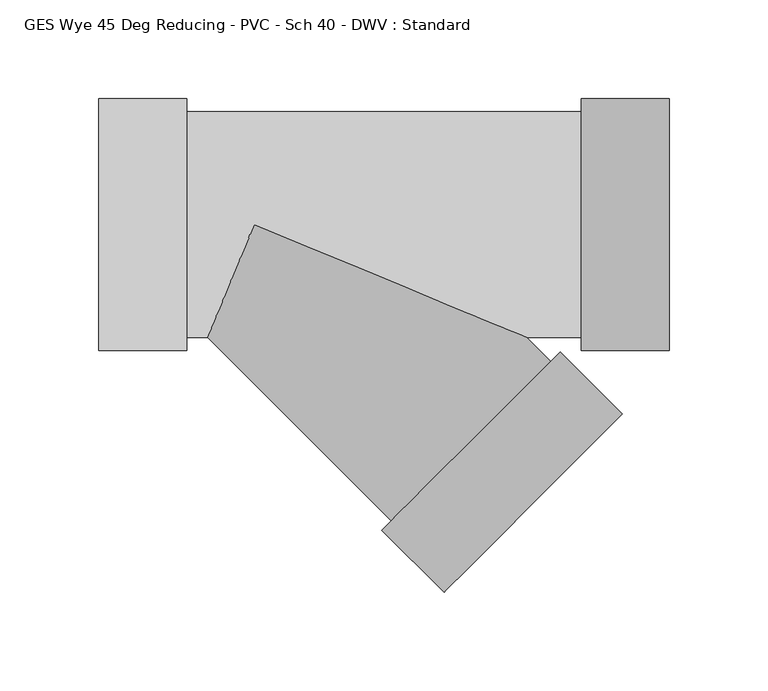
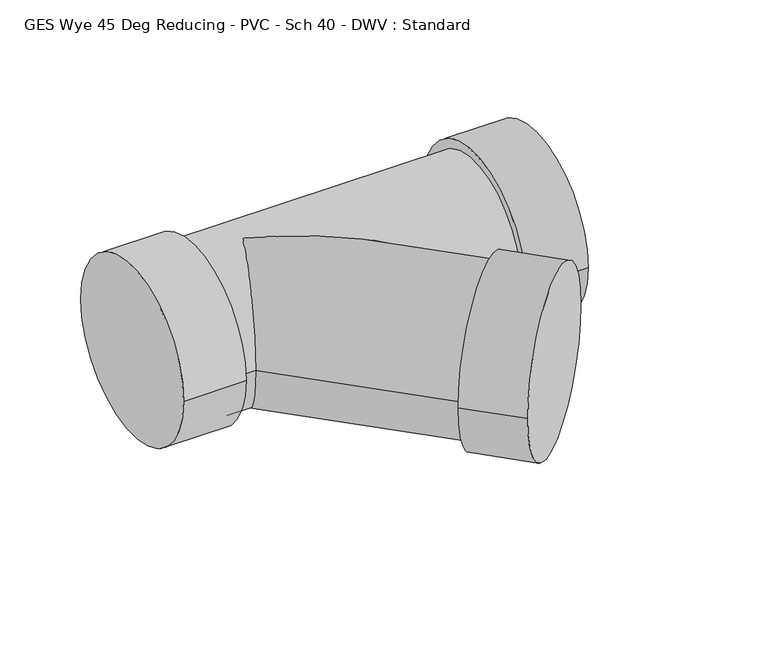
"""IFC4 building model written with IfcOpenShell, lengths in millimetres: pipe fitting geometry, GES Wye 45 Deg Reducing - PVC - Sch 40 - DWV : Standard."""

from ifc_helpers import new_model, si_unit, frame, origin, place, context, project, spatial, circle_curve, ellipse_curve, source, transform, mapped, element, save
from ifc_brep_helpers import plane_surface, cylinder_surface, advanced_brep


def ges_wye_45_deg_reducing_pvc_sch_40_dwv_standard_ed8fe2ce(model_context):
    return source(origin(), model_context, "Body", "AdvancedBrep", [
        advanced_brep(
        [(-34.2622187, 63.754, 0.0), (-34.2622187, -63.754, 0.0), (-34.2622187, 57.15, 0.0), (-34.2622187, -57.15, 0.0), (-78.7122187, 63.754, 0.0), (-78.7122187, -63.754, 0.0), (165.6159375, -63.754, 0.0), (165.6159375, 63.754, 0.0), (165.6159375, -57.15, 0.0), (165.6159375, 57.15, 0.0), (210.0659375, -63.754, 0.0), (210.0659375, 63.754, 0.0), (137.9824425, -57.15, 0.0), (0.0, 0.0, -57.15), (-23.6705659, -57.15, 0.0), (0.0, 0.0, 57.15), (69.3101193, -150.1210249, 0.0), (150.1282255, -69.2945211, 0.0), (64.6406287, -154.7910006, 0.0), (154.7977161, -64.6245453, 0.0), (96.0731579, -186.2202642, 0.0), (186.2302453, -96.0538089, 0.0)],
        [
            (0, 1, circle_curve(frame((-34.2622187, 0.0, 0.0), z_axis=(1.0, 0.0, 0.0), x_axis=(0.0, -1.0, 0.0)), 63.754)),
            (1, 0, circle_curve(frame((-34.2622187, 0.0, 0.0), z_axis=(1.0, 0.0, 0.0), x_axis=(0.0, -1.0, 0.0)), 63.754)),
            (2, 3, circle_curve(frame((-34.2622187, 0.0, 0.0), z_axis=(-1.0, 0.0, 0.0), x_axis=(0.0, 0.0, -1.0)), 57.15)),
            (3, 2, circle_curve(frame((-34.2622187, 0.0, 0.0), z_axis=(-1.0, 0.0, 0.0), x_axis=(0.0, 0.0, 1.0)), 57.15)),
            (4, 5, circle_curve(frame((-78.7122187, 0.0, 0.0), z_axis=(-1.0, 0.0, 0.0), x_axis=(0.0, -1.0, 0.0)), 63.754)),
            (5, 4, circle_curve(frame((-78.7122187, 0.0, 0.0), z_axis=(-1.0, 0.0, 0.0), x_axis=(0.0, -1.0, 0.0)), 63.754)),
            (0, 4),
            (5, 1),
            (6, 7, circle_curve(frame((165.6159375, 0.0, 0.0), z_axis=(-1.0, 0.0, 0.0), x_axis=(0.0, 1.0, 0.0)), 63.754)),
            (7, 6, circle_curve(frame((165.6159375, 0.0, 0.0), z_axis=(-1.0, 0.0, 0.0), x_axis=(0.0, 1.0, 0.0)), 63.754)),
            (8, 9, circle_curve(frame((165.6159375, 0.0, 0.0), z_axis=(1.0, 0.0, 0.0), x_axis=(0.0, 0.0, -1.0)), 57.15)),
            (9, 8, circle_curve(frame((165.6159375, 0.0, 0.0), z_axis=(1.0, 0.0, 0.0), x_axis=(0.0, 0.0, 1.0)), 57.15)),
            (10, 11, circle_curve(frame((210.0659375, 0.0, 0.0), z_axis=(1.0, 0.0, 0.0), x_axis=(0.0, 1.0, 0.0)), 63.754)),
            (11, 10, circle_curve(frame((210.0659375, 0.0, 0.0), z_axis=(1.0, 0.0, 0.0), x_axis=(0.0, 1.0, 0.0)), 63.754)),
            (6, 10),
            (11, 7),
            (2, 9),
            (8, 12),
            (12, 13, ellipse_curve(frame((0.0, 0.0, 0.0), z_axis=(0.38265943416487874, 0.9238894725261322, 0.0), x_axis=(0.9238894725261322, -0.3826594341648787, 0.0)), 149.3495126, 57.15)),
            (13, 14, ellipse_curve(frame((0.0, 0.0, 0.0), z_axis=(-0.9238894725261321, 0.38265943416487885, 0.0), x_axis=(0.3826594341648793, 0.9238894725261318, 0.0)), 61.8580487, 57.15)),
            (14, 3),
            (14, 15, ellipse_curve(frame((0.0, 0.0, 0.0), z_axis=(-0.9238894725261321, 0.38265943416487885, 0.0), x_axis=(0.3826594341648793, 0.9238894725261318, 0.0)), 61.8580487, 57.15)),
            (15, 12, ellipse_curve(frame((0.0, 0.0, 0.0), z_axis=(0.38265943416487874, 0.9238894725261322, 0.0), x_axis=(0.9238894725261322, -0.3826594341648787, 0.0)), 149.3495126, 57.15)),
            (14, 16),
            (16, 17, circle_curve(frame((109.7191724, -109.707773, 0.0), z_axis=(-0.7071435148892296, 0.7070700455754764, 0.0), x_axis=(0.7070700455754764, 0.7071435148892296, 0.0)), 57.15)),
            (17, 12),
            (17, 16, circle_curve(frame((109.7191724, -109.707773, 0.0), z_axis=(-0.7071435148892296, 0.7070700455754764, 0.0), x_axis=(0.7070700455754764, 0.7071435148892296, 0.0)), 57.15)),
            (18, 19, circle_curve(frame((109.7191724, -109.707773, 0.0), z_axis=(-0.7071435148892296, 0.7070700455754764, 0.0), x_axis=(0.7070700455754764, 0.7071435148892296, 0.0)), 63.754)),
            (19, 18, circle_curve(frame((109.7191724, -109.707773, 0.0), z_axis=(-0.7071435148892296, 0.7070700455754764, 0.0), x_axis=(0.7070700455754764, 0.7071435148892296, 0.0)), 63.754)),
            (20, 21, circle_curve(frame((141.1517016, -141.1370365, 0.0), z_axis=(0.7071435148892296, -0.7070700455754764, 0.0), x_axis=(0.7070700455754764, 0.7071435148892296, 0.0)), 63.754)),
            (21, 20, circle_curve(frame((141.1517016, -141.1370365, 0.0), z_axis=(0.7071435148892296, -0.7070700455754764, 0.0), x_axis=(0.7070700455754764, 0.7071435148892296, 0.0)), 63.754)),
            (18, 20),
            (21, 19),
        ],
        [
            plane_surface(frame((-34.2622187, 0.0, 0.0), z_axis=(1.0, 0.0, 0.0), x_axis=(0.0, 0.0, 1.0))),
            plane_surface(frame((-78.7122187, 0.0, 0.0), z_axis=(-1.0, 0.0, 0.0), x_axis=(0.0, 0.0, 1.0))),
            cylinder_surface(frame((-34.2622187, 0.0, 0.0), z_axis=(1.0, 0.0, 0.0), x_axis=(0.0, -1.0, 0.0)), 63.754),
            plane_surface(frame((165.6159375, 0.0, 0.0), z_axis=(-1.0, 0.0, 0.0), x_axis=(0.0, 0.0, 1.0))),
            plane_surface(frame((210.0659375, 0.0, 0.0), z_axis=(1.0, 0.0, 0.0), x_axis=(0.0, 0.0, 1.0))),
            cylinder_surface(frame((165.6159375, 0.0, 0.0), z_axis=(-1.0, 0.0, 0.0), x_axis=(0.0, 1.0, 0.0)), 63.754),
            cylinder_surface(frame((-34.2622187, 0.0, 0.0), z_axis=(1.0, 0.0, 0.0), x_axis=(0.0, 0.0, -1.0)), 57.15),
            cylinder_surface(frame((-34.2622187, 0.0, 0.0), z_axis=(1.0, 0.0, 0.0), x_axis=(0.0, 0.0, 1.0)), 57.15),
            cylinder_surface(frame((0.0, 0.0, 0.0), z_axis=(-0.7071435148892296, 0.7070700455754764, 0.0), x_axis=(0.7070700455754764, 0.7071435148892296, 0.0)), 57.15),
            plane_surface(frame((109.7191724, -109.707773, 0.0), z_axis=(-0.7071435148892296, 0.7070700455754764, 0.0), x_axis=(0.0, 0.0, 1.0))),
            plane_surface(frame((141.1517016, -141.1370365, 0.0), z_axis=(0.7071435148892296, -0.7070700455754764, 0.0), x_axis=(0.0, 0.0, 1.0))),
            cylinder_surface(frame((109.7191724, -109.707773, 0.0), z_axis=(-0.7071435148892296, 0.7070700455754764, 0.0), x_axis=(0.7070700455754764, 0.7071435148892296, 0.0)), 63.754),
        ],
        [
            (0, [[1, 2], [3, 4]]),
            (1, [[5, 6]]),
            (2, [[-1, 7, -6, 8]]),
            (2, [[-2, -8, -5, -7]]),
            (3, [[9, 10], [11, 12]]),
            (4, [[13, 14]]),
            (5, [[-9, 15, -14, 16]]),
            (5, [[-10, -16, -13, -15]]),
            (6, [[17, -11, 18, 19, 20, 21, -3]]),
            (7, [[-17, -4, -21, 22, 23, -18, -12]]),
            (8, [[24, 25, 26, -23, -22]]),
            (8, [[-24, -20, -19, -26, 27]]),
            (9, [[28, 29], [-25, -27]]),
            (10, [[30, 31]]),
            (11, [[-28, 32, -31, 33]]),
            (11, [[-29, -33, -30, -32]]),
        ],
    ),
    ])


if __name__ == "__main__":
    model = new_model("IFC4")
    model_context = context("Model", 3, world=origin())
    ifc_project = project(units=[si_unit("LENGTHUNIT", "METRE", prefix="MILLI")], contexts=[model_context])
    site = spatial("IfcSite", under=ifc_project)
    building = spatial("IfcBuilding", under=site)
    placement = place(None, origin())
    ges_wye_45_deg_reducing_pvc_sch_40_dwv_standard_shape = ges_wye_45_deg_reducing_pvc_sch_40_dwv_standard_ed8fe2ce(model_context)
    element("IfcPipeFitting", 1, ObjectType="GES Wye 45 Deg Reducing - PVC - Sch 40 - DWV : Standard", at=placement, inside=building, context=model_context, shape_type="MappedRepresentation", body=[
        mapped(ges_wye_45_deg_reducing_pvc_sch_40_dwv_standard_shape, transform((0.0, 0.0, 0.0), x_axis=(1.0, 0.0, 0.0), y_axis=(0.0, 1.0, 0.0), z_axis=(0.0, 0.0, 1.0))),
    ])
    save(model, "model.ifc")
